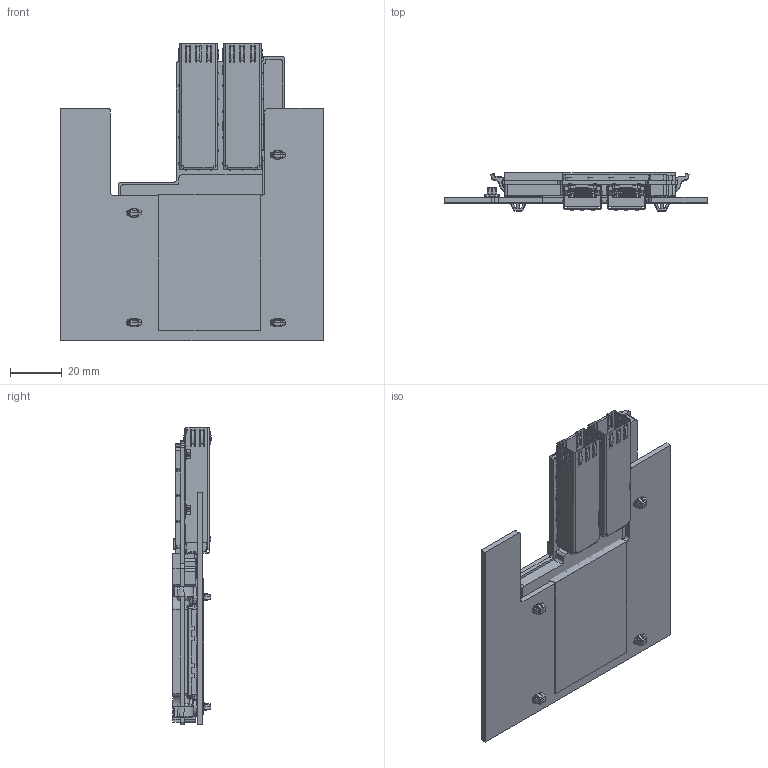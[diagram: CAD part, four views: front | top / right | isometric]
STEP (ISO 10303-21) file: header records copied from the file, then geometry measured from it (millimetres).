
FILE_DESCRIPTION((''),'2;1');
FILE_NAME('OCP-MZ-2_0-BD-ASSY_1X4SFP_8MM_ASM','2015-11-17T',('95030616'),(''),'PRO/ENGINEER BY PARAMETRIC TECHNOLOGY CORPORATION, 2013040','PRO/ENGINEER BY PARAMETRIC TECHNOLOGY CORPORATION, 2013040','');
FILE_SCHEMA(('AUTOMOTIVE_DESIGN { 1 0 10303 214 1 1 1 1 }'));
Products named in the file (19): OCP-2_0-BOARD_2; S61083-121X0XXX; F01-LED-EVERLIGHT; BTM-KEEPOUT-2MM; BTM-KEEPOUT-2_9MM; TOP-KEEPOUT-4_5MM; TOP-KEEPOUT-4_5MM-3; TOP-KEEPOUT-4MM; TOP-KEEPOUT-4MM-2; TOP-KEEPOUT-7_5MM; PORTION_MB_LEOPARD_E1_FILLED; FCI_61082_081402LF_LEOPARD_E1; CN120_GPN2_0-8_SMD_H_F-E1; ASSY_PORTION_MB_LEOPARD_E1_ASM__ASM; F06-MEZZ-LATCH-RIGHT-5MM; F06-MEZZ-LATCH-LEFT-5MM; 1X1STANDASM_ASM; SFP28-20150313; OCP-MZ-2_0-BD-ASSY_1X4SFP_8MM_ASM
Assembly tree (25 placements, depth 3):
  OCP-MZ-2_0-BD-ASSY_1X4SFP_8MM_ASM
    OCP-2_0-BOARD_2
    S61083-121X0XXX
    F01-LED-EVERLIGHT  x4
    BTM-KEEPOUT-2MM
    BTM-KEEPOUT-2_9MM
    TOP-KEEPOUT-4_5MM
    TOP-KEEPOUT-4_5MM-3
    TOP-KEEPOUT-4MM
    TOP-KEEPOUT-4MM-2
    TOP-KEEPOUT-7_5MM
    ASSY_PORTION_MB_LEOPARD_E1_ASM__ASM
      PORTION_MB_LEOPARD_E1_FILLED
      FCI_61082_081402LF_LEOPARD_E1
      CN120_GPN2_0-8_SMD_H_F-E1
    F06-MEZZ-LATCH-RIGHT-5MM  x3
    F06-MEZZ-LATCH-LEFT-5MM
    1X1STANDASM_ASM  x2
    SFP28-20150313  x2
Bounding box: 101.72 x 14.86 x 115.25 mm (x, y, z)
Volume: 78117.5 mm3; surface area: 74301.5 mm2
Topology: 24 solids, 50 shells, 10768 faces, 30309 edges, 19385 vertices
Faces by surface type: plane 7921, cylinder 2145, bspline 439, sphere 123, cone 108, torus 32
Entity records: 283182 total; most frequent: CARTESIAN_POINT 55124, ORIENTED_EDGE 42056, DIRECTION 37060, EDGE_CURVE 21028, VECTOR 17964, LINE 17964, VERTEX_POINT 13437, PRESENTATION_STYLE_ASSIGNMENT 11233
